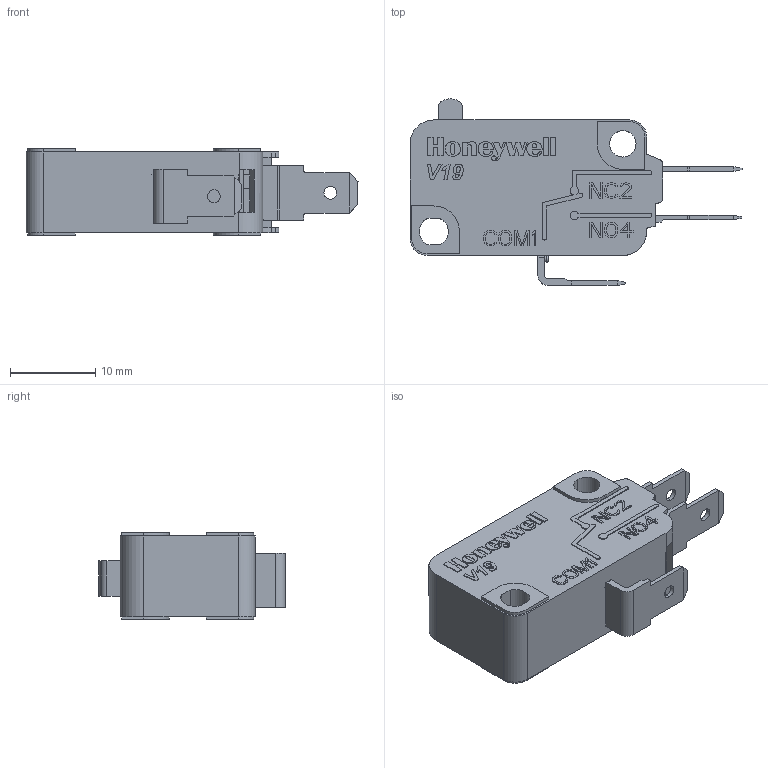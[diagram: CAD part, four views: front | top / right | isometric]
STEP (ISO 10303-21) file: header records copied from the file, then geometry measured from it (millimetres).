
FILE_DESCRIPTION((''),'2;1');
FILE_NAME('V19T16-EC100','2020-06-15T13:37:15',('H252115'),(''),'CREO PARAMETRIC BY PTC INC, 2017380','CREO PARAMETRIC BY PTC INC, 2017380','');
FILE_SCHEMA(('CONFIG_CONTROL_DESIGN'));
Length unit declared in the file: millimetre
Products named in the file (1): V19T16-EC100
Bounding box: 39 x 21.9 x 10.2 mm (x, y, z)
Volume: 4157.2 mm3; surface area: 2444.7 mm2
Topology: 1 solids, 1 shells, 689 faces, 1956 edges, 1305 vertices
Faces by surface type: plane 515, extrusion 101, cylinder 66, torus 5, bspline 2
Entity records: 24688 total; most frequent: CARTESIAN_POINT 6957, ORIENTED_EDGE 3912, DIRECTION 3168, EDGE_CURVE 1956, VECTOR 1690, LINE 1589, VERTEX_POINT 1305, EDGE_LOOP 741
